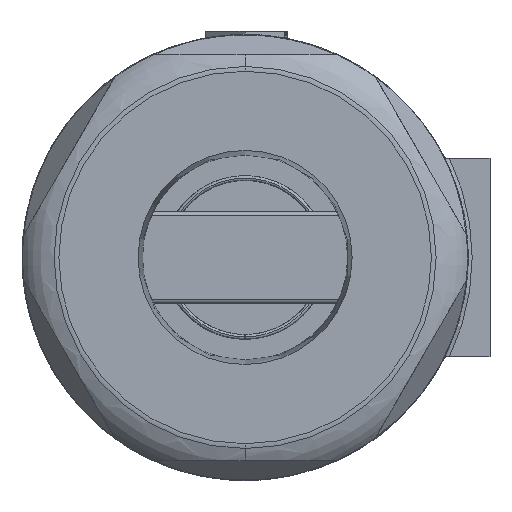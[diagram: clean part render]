
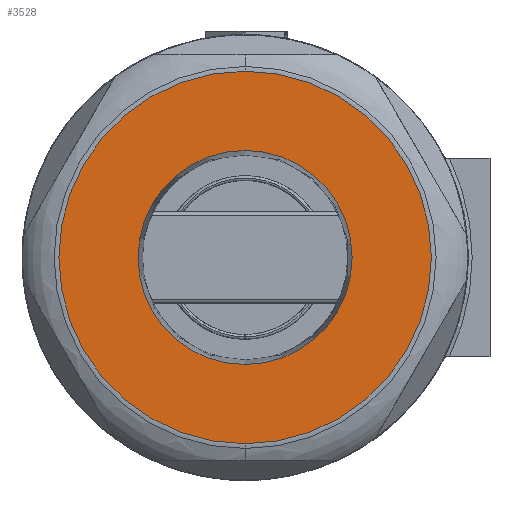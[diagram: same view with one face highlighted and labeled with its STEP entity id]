
A CAD part, left-side view. The second image highlights one B-rep face of the part: STEP entity #3528.
In plain terms, the highlighted planar face has unit normal (-1, 0, 0).
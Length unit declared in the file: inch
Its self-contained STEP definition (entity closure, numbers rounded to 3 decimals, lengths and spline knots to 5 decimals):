
#211 = EDGE_LOOP ( 'NONE', ( #6986, #9177 ) ) ;
#231 = EDGE_CURVE ( 'NONE', #5561, #3109, #7978, .T. ) ;
#507 = CARTESIAN_POINT ( 'NONE',  ( -1.07, 0., 0.26987 ) ) ;
#814 = DIRECTION ( 'NONE',  ( -1., 0., 0. ) ) ;
#878 = DIRECTION ( 'NONE',  ( 0., 0., 1. ) ) ;
#1544 = DIRECTION ( 'NONE',  ( 0., 0., 1. ) ) ;
#2001 = AXIS2_PLACEMENT_3D ( 'NONE', #2269, #5059, #8780 ) ;
#2269 = CARTESIAN_POINT ( 'NONE',  ( -1.07, 0., 0. ) ) ;
#3109 = VERTEX_POINT ( 'NONE', #4938 ) ;
#3155 = AXIS2_PLACEMENT_3D ( 'NONE', #5917, #8528, #7675 ) ;
#3326 = DIRECTION ( 'NONE',  ( -1., 0., 0. ) ) ;
#3528 = ADVANCED_FACE ( 'NONE', ( #5450, #4723 ), #9226, .T. ) ;
#4179 = AXIS2_PLACEMENT_3D ( 'NONE', #6925, #3326, #1544 ) ;
#4332 = VERTEX_POINT ( 'NONE', #507 ) ;
#4386 = CIRCLE ( 'NONE', #10213, 0.26987 ) ;
#4403 = CARTESIAN_POINT ( 'NONE',  ( -1.07, 0., -0.26987 ) ) ;
#4534 = CIRCLE ( 'NONE', #2001, 0.46964 ) ;
#4723 = FACE_OUTER_BOUND ( 'NONE', #211, .T. ) ;
#4909 = EDGE_CURVE ( 'NONE', #3109, #5561, #4534, .T. ) ;
#4938 = CARTESIAN_POINT ( 'NONE',  ( -1.07, 0., -0.46964 ) ) ;
#5059 = DIRECTION ( 'NONE',  ( -1., 0., 0. ) ) ;
#5450 = FACE_BOUND ( 'NONE', #6045, .T. ) ;
#5488 = DIRECTION ( 'NONE',  ( 0., 0., 1. ) ) ;
#5561 = VERTEX_POINT ( 'NONE', #7886 ) ;
#5642 = ORIENTED_EDGE ( 'NONE', *, *, #10590, .F. ) ;
#5906 = CARTESIAN_POINT ( 'NONE',  ( -1.07, 0., 0. ) ) ;
#5917 = CARTESIAN_POINT ( 'NONE',  ( -1.07, 0., 0. ) ) ;
#6045 = EDGE_LOOP ( 'NONE', ( #5642, #10430 ) ) ;
#6564 = CARTESIAN_POINT ( 'NONE',  ( -1.07, -0.25, 0. ) ) ;
#6594 = VERTEX_POINT ( 'NONE', #4403 ) ;
#6925 = CARTESIAN_POINT ( 'NONE',  ( -1.07, 0., 0. ) ) ;
#6986 = ORIENTED_EDGE ( 'NONE', *, *, #231, .T. ) ;
#7675 = DIRECTION ( 'NONE',  ( 0., 0., 1. ) ) ;
#7886 = CARTESIAN_POINT ( 'NONE',  ( -1.07, 0., 0.46964 ) ) ;
#7978 = CIRCLE ( 'NONE', #3155, 0.46964 ) ;
#8528 = DIRECTION ( 'NONE',  ( -1., 0., 0. ) ) ;
#8780 = DIRECTION ( 'NONE',  ( 0., 0., 1. ) ) ;
#9177 = ORIENTED_EDGE ( 'NONE', *, *, #4909, .T. ) ;
#9226 = PLANE ( 'NONE',  #11125 ) ;
#9411 = CIRCLE ( 'NONE', #4179, 0.26987 ) ;
#9617 = DIRECTION ( 'NONE',  ( -1., 0., 0. ) ) ;
#10213 = AXIS2_PLACEMENT_3D ( 'NONE', #5906, #9617, #5488 ) ;
#10430 = ORIENTED_EDGE ( 'NONE', *, *, #12007, .F. ) ;
#10590 = EDGE_CURVE ( 'NONE', #4332, #6594, #9411, .T. ) ;
#11125 = AXIS2_PLACEMENT_3D ( 'NONE', #6564, #814, #878 ) ;
#12007 = EDGE_CURVE ( 'NONE', #6594, #4332, #4386, .T. ) ;
